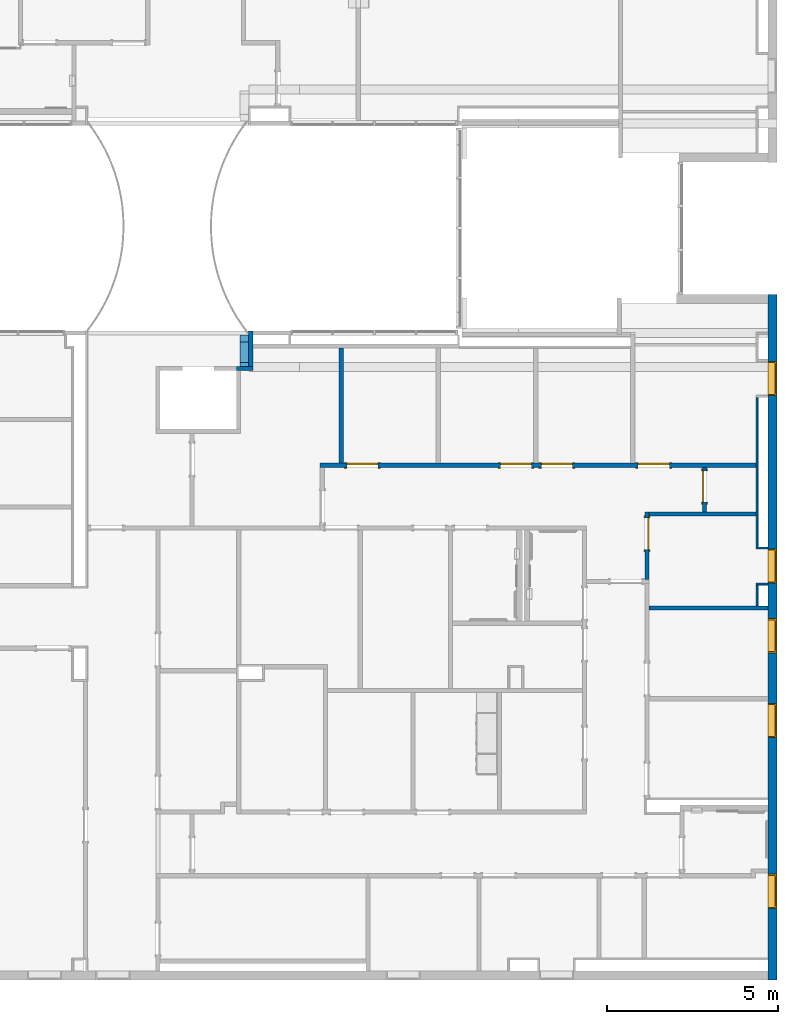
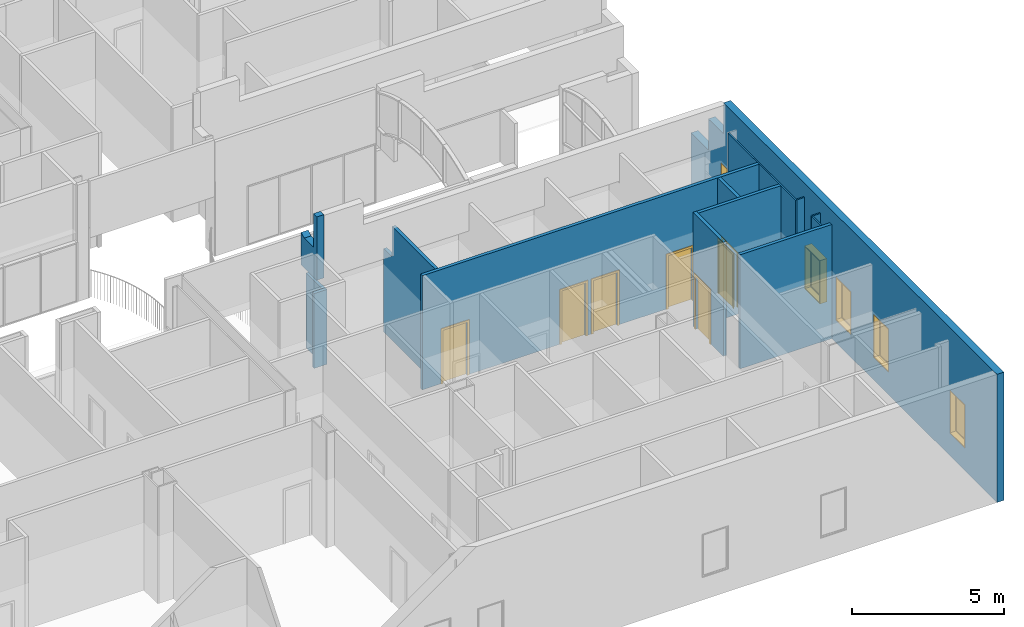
# One storey, part 17 of 47: 14 walls, 6 doors, 5 windows, 14 openings.
"""IFC2X3 building model written with IfcOpenShell, lengths in metres."""

from ifc_helpers import new_model, entity, si_unit, converted_unit, frame, frame_2d, origin, origin_2d_with_axis, place, context, project, spatial, polyline, circle_curve, parameter, trimmed, segment, composite_curve, rectangle, outline, extrude, clip, halfspace, source, transform, mapped, material, layer, layer_set, layer_usage, type_object, type_shapes, element, fill, save


model = new_model("IFC2X3")

# Units and contexts
model_context = context("Model", 3, precision=1e-09, world=origin())
plan_context = context("Plan", 3, precision=1e-09, world=origin())
ifc_project = project(units=[si_unit("LENGTHUNIT", "METRE"), si_unit("AREAUNIT", "SQUARE_METRE"), si_unit("VOLUMEUNIT", "CUBIC_METRE"), converted_unit("PLANEANGLEUNIT", "DEGREE", entity("IfcRatioMeasure", 0.01745329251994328), si_unit("PLANEANGLEUNIT", "RADIAN"), dimensions=[0, 0, 0, 0, 0, 0, 0]), si_unit("TIMEUNIT", "SECOND")], contexts=[model_context, plan_context])

# Site, building, storey
site_placement = place(None, origin())
site = spatial("IfcSite", under=ifc_project, at=site_placement, Name="Default", CompositionType="ELEMENT")
building_placement = place(site_placement, origin())
building = spatial("IfcBuilding", under=site, at=building_placement, CompositionType="ELEMENT")
storey_placement = place(building_placement, frame((0.0, 0.0, 4.570000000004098)))
storey = spatial("IfcBuildingStorey", under=building, at=storey_placement, Name="Second Floor", CompositionType="ELEMENT", Elevation=4.570000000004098)

# Wall, openings, windows
ifc_material_1 = material(Name="Insulation - Insulated Panel")
ifc_layer_1 = layer(ifc_material_1, 0.042)
ifc_material_2 = material(Name="Metal - Firring")
ifc_layer_2 = layer(ifc_material_2, 0.038)
ifc_material_3 = material(Name="Wood - Sheathing - plywood")
ifc_layer_3 = layer(ifc_material_3, 0.019)
ifc_material_4 = material(Name="Metal - Stud Layer")
ifc_layer_4 = layer(ifc_material_4, 0.152)
ifc_material_5 = material(Name="Plasterboard")
ifc_layer_5 = layer(ifc_material_5, 0.016)
ifc_layer_set_1 = layer_set([ifc_layer_1, ifc_layer_2, ifc_layer_3, ifc_layer_4, ifc_layer_5], Name="Basic Wall:Exterior - Insul Panel on Mtl. Stud")
ifc_layer_usage_1 = layer_usage(ifc_layer_set_1, "AXIS2", "NEGATIVE", 0.1335)
wall_1_placement = place(storey_placement, frame((0.246499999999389, 29.75999999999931, 0.0), z_axis=(0.0, 0.0, 1.0), x_axis=(0.0, -1.0, 0.0)))
wall_1 = element("IfcWallStandardCase", 1, at=wall_1_placement, inside=storey, material=ifc_layer_usage_1, Name="Basic Wall:Exterior - Insul Panel on Mtl. Stud", ObjectType="Basic Wall:Exterior - Insul Panel on Mtl. Stud", context=model_context, shape_type="Clipping", body=[
    clip(extrude(rectangle(XDim=20.10000000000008, YDim=0.267, at=frame_2d((10.05000000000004, 0.0), x_axis=(-1.0, 0.0))), origin(), (0.0, 0.0, 1.0), 5.136999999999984), halfspace(frame((2.133403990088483, 0.0, 5.136999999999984), z_axis=(-0.7602909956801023, 0.0, 0.6495826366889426), x_axis=(0.0, 1.0, 0.0)), False)),
])
opening_1_placement = place(wall_1_placement, frame((1.306761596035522, 0.1335, 3.638799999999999)))
element("IfcOpeningElement", 2, at=opening_1_placement, cuts=wall_1, Name="Basic Wall:Exterior - Insul Panel on Mtl. Stud:2", ObjectType="Opening", context=model_context, shape_type="SweptSolid", body=[
    extrude(outline(polyline([(-1.676040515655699, -0.3447159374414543), (1.608228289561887, -0.3447159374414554), (0.8719263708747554, 0.5170739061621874), (-0.07729693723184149, -0.2939300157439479), (-0.7268172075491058, 0.4662879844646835), (-1.676040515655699, -0.3447159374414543)])), frame((0.0, 0.0, 0.0), z_axis=(0.0, -1.0, 0.0), x_axis=(-0.6495826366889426, 0.0, -0.7602909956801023)), (0.0, 0.0, 1.0), 0.267),
])
opening_2_placement = place(wall_1_placement, frame((1.965561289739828, -0.1335000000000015, 0.905)))
opening_2 = element("IfcOpeningElement", 3, at=opening_2_placement, cuts=wall_1, Name="M_Fixed:1735 x 1000mm:1735 x 1000mm:1", ObjectType="Opening", context=model_context, shape_type="SweptSolid", body=[
    extrude(rectangle(XDim=1.734999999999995, YDim=0.9999999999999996, at=frame_2d((0.8674999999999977, 0.4999999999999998), x_axis=(1.0, 0.0))), frame((0.0, 0.0, 0.0), z_axis=(0.0, 1.0, 0.0), x_axis=(0.0, 0.0, 1.0)), (0.0, 0.0, 1.0), 0.267),
])
opening_3_placement = place(wall_1_placement, frame((7.465561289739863, -0.1335000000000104, 0.905)))
opening_3 = element("IfcOpeningElement", 4, at=opening_3_placement, cuts=wall_1, Name="M_Fixed:1735 x 1000mm:1735 x 1000mm:1", ObjectType="Opening", context=model_context, shape_type="SweptSolid", body=[
    extrude(rectangle(XDim=1.734999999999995, YDim=0.9999999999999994, at=frame_2d((0.8674999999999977, 0.5000000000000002), x_axis=(1.0, 0.0))), frame((0.0, 0.0, 0.0), z_axis=(0.0, 1.0, 0.0), x_axis=(0.0, 0.0, 1.0)), (0.0, 0.0, 1.0), 0.267),
])
opening_4_placement = place(wall_1_placement, frame((9.509999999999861, -0.1335000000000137, 0.905)))
opening_4 = element("IfcOpeningElement", 5, at=opening_4_placement, cuts=wall_1, Name="M_Fixed:1735 x 1000mm:1735 x 1000mm:1", ObjectType="Opening", context=model_context, shape_type="SweptSolid", body=[
    extrude(rectangle(XDim=1.734999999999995, YDim=0.9999999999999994, at=frame_2d((0.8674999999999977, 0.5000000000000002), x_axis=(1.0, 0.0))), frame((0.0, 0.0, 0.0), z_axis=(0.0, 1.0, 0.0), x_axis=(0.0, 0.0, 1.0)), (0.0, 0.0, 1.0), 0.267),
])
opening_5_placement = place(wall_1_placement, frame((11.99049999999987, -0.1335000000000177, 0.905)))
opening_5 = element("IfcOpeningElement", 6, at=opening_5_placement, cuts=wall_1, Name="M_Fixed:1735 x 1000mm:1735 x 1000mm:1", ObjectType="Opening", context=model_context, shape_type="SweptSolid", body=[
    extrude(rectangle(XDim=1.734999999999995, YDim=0.9999999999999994, at=frame_2d((0.8674999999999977, 0.5000000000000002), x_axis=(1.0, 0.0))), frame((0.0, 0.0, 0.0), z_axis=(0.0, 1.0, 0.0), x_axis=(0.0, 0.0, 1.0)), (0.0, 0.0, 1.0), 0.267),
])
opening_6_placement = place(wall_1_placement, frame((17.0, -0.1335000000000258, 0.905)))
opening_6 = element("IfcOpeningElement", 7, at=opening_6_placement, cuts=wall_1, Name="M_Fixed:1735 x 1000mm:1735 x 1000mm:1", ObjectType="Opening", context=model_context, shape_type="SweptSolid", body=[
    extrude(rectangle(XDim=1.734999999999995, YDim=0.9999999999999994, at=frame_2d((0.8674999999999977, 0.5000000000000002), x_axis=(1.0, 0.0))), frame((0.0, 0.0, 0.0), z_axis=(0.0, 1.0, 0.0), x_axis=(0.0, 0.0, 1.0)), (0.0, 0.0, 1.0), 0.267),
])
window_style = type_object("IfcWindowStyle", Name="1735 x 1000mm", ConstructionType="NOTDEFINED", OperationType="NOTDEFINED", ParameterTakesPrecedence=False, Sizeable=False)
shared_shape_1 = source(origin(), model_context, "Body", "SweptSolid", [
    extrude(rectangle(XDim=0.012, YDim=0.873999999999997, at=origin_2d_with_axis()), frame((0.5000000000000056, 0.2259999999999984, 0.06299999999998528), z_axis=(0.0, 0.0, 1.0), x_axis=(0.0, -1.0, 0.0)), (0.0, 0.0, 1.0), 1.609000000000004),
    extrude(outline(polyline([(-0.4809999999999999, -0.8485000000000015), (0.4809999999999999, -0.8485000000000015), (0.4809999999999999, 0.8485000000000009), (-0.4809999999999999, 0.8485000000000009), (-0.4809999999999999, -0.8485000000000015)]), holes=[polyline([(-0.4369999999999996, -0.8045000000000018), (-0.4369999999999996, 0.8045000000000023), (0.4369999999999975, 0.8045000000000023), (0.4369999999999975, -0.8045000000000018), (-0.4369999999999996, -0.8045000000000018)])]), frame((0.5000000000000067, 0.203999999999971, 0.8674999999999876), z_axis=(0.0, 1.0, 0.0), x_axis=(1.0, 0.0, 0.0)), (0.0, 0.0, 1.0), 0.04400000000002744),
    extrude(outline(polyline([(-0.4999999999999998, -0.8674999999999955), (0.4999999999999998, -0.8674999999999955), (0.4999999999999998, 0.8674999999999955), (-0.4999999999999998, 0.8674999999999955), (-0.4999999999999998, -0.8674999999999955)]), holes=[polyline([(-0.4810000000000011, -0.8484999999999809), (-0.4810000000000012, 0.8485000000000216), (0.4809999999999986, 0.8485000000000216), (0.4809999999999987, -0.8484999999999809), (-0.4810000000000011, -0.8484999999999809)])]), frame((0.500000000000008, 0.203999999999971, 0.8675000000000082), z_axis=(0.0, 1.0, 0.0), x_axis=(1.0, 0.0, 0.0)), (0.0, 0.0, 1.0), 0.06300000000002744),
    extrude(outline(polyline([(-0.5000000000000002, -0.867499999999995), (0.5000000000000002, -0.867499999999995), (0.5000000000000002, 0.867499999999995), (-0.5000000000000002, 0.867499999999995), (-0.5000000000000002, -0.867499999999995)]), holes=[polyline([(-0.4679999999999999, -0.8354999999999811), (-0.4679999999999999, 0.8355000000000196), (0.4680000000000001, 0.8355000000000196), (0.4680000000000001, -0.8354999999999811), (-0.4679999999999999, -0.8354999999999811)])]), frame((0.5000000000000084, 0.0, 0.8675000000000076), z_axis=(0.0, 1.0, 0.0), x_axis=(1.0, 0.0, 0.0)), (0.0, 0.0, 1.0), 0.2039999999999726),
])
type_shapes(window_style, [shared_shape_1])
window_1_placement = place(opening_2_placement, origin())
window_1 = element("IfcWindow", 8, at=window_1_placement, inside=storey, type_object=window_style, Name="M_Fixed:1735 x 1000mm:1735 x 1000mm", ObjectType="1735 x 1000mm", OverallHeight=1.734999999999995, OverallWidth=0.9999999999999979, context=model_context, shape_type="MappedRepresentation", body=[
    mapped(shared_shape_1, transform((0.0, 0.0, 0.0), scale=1.0)),
])
fill(opening_2, window_1)
window_2_placement = place(opening_3_placement, origin())
window_2 = element("IfcWindow", 9, at=window_2_placement, inside=storey, type_object=window_style, Name="M_Fixed:1735 x 1000mm:1735 x 1000mm", ObjectType="1735 x 1000mm", OverallHeight=1.734999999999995, OverallWidth=0.9999999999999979, context=model_context, shape_type="MappedRepresentation", body=[
    mapped(shared_shape_1, transform((0.0, 0.0, 0.0), scale=1.0)),
])
fill(opening_3, window_2)
window_3_placement = place(opening_4_placement, origin())
window_3 = element("IfcWindow", 10, at=window_3_placement, inside=storey, type_object=window_style, Name="M_Fixed:1735 x 1000mm:1735 x 1000mm", ObjectType="1735 x 1000mm", OverallHeight=1.734999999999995, OverallWidth=1.0, context=model_context, shape_type="MappedRepresentation", body=[
    mapped(shared_shape_1, transform((0.0, 0.0, 0.0), scale=1.0)),
])
fill(opening_4, window_3)
window_4_placement = place(opening_5_placement, origin())
window_4 = element("IfcWindow", 11, at=window_4_placement, inside=storey, type_object=window_style, Name="M_Fixed:1735 x 1000mm:1735 x 1000mm", ObjectType="1735 x 1000mm", OverallHeight=1.734999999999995, OverallWidth=1.0, context=model_context, shape_type="MappedRepresentation", body=[
    mapped(shared_shape_1, transform((0.0, 0.0, 0.0), scale=1.0)),
])
fill(opening_5, window_4)
window_5_placement = place(opening_6_placement, origin())
window_5 = element("IfcWindow", 12, at=window_5_placement, inside=storey, type_object=window_style, Name="M_Fixed:1735 x 1000mm:1735 x 1000mm", ObjectType="1735 x 1000mm", OverallHeight=1.734999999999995, OverallWidth=1.0, context=model_context, shape_type="MappedRepresentation", body=[
    mapped(shared_shape_1, transform((0.0, 0.0, 0.0), scale=1.0)),
])
fill(opening_6, window_5)

# Wall
ifc_layer_6 = layer(ifc_material_5, 0.016)
ifc_layer_7 = layer(ifc_material_4, 0.092)
ifc_layer_8 = layer(ifc_material_5, 0.016)
ifc_layer_set_2 = layer_set([ifc_layer_6, ifc_layer_7, ifc_layer_8], Name="Basic Wall:Interior - Partition (92mm Stud)")
ifc_layer_usage_2 = layer_usage(ifc_layer_set_2, "AXIS2", "NEGATIVE", 0.062)
wall_2_placement = place(storey_placement, frame((-15.0479750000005, 27.64589999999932, 0.0), z_axis=(0.0, 0.0, 1.0), x_axis=(0.0, 1.0, 0.0)))
element("IfcWallStandardCase", 13, at=wall_2_placement, inside=storey, material=ifc_layer_usage_2, Name="Basic Wall:Interior - Partition (92mm Stud)", ObjectType="Basic Wall:Interior - Partition (92mm Stud)", context=model_context, shape_type="SweptSolid", body=[
    extrude(rectangle(XDim=1.044298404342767, YDim=0.1240000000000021, at=frame_2d((0.5221492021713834, 0.0), x_axis=(-1.0, 0.0))), origin(), (0.0, 0.0, 1.0), 2.999999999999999),
])

# Wall, openings, doors
ifc_layer_usage_3 = layer_usage(ifc_layer_set_2, "AXIS2", "NEGATIVE", 0.062)
wall_3_placement = place(storey_placement, frame((-0.2300000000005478, 24.74643871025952, 0.0), z_axis=(0.0, 0.0, 1.0), x_axis=(-1.0, 0.0, 0.0)))
wall_3 = element("IfcWallStandardCase", 14, at=wall_3_placement, inside=storey, material=ifc_layer_usage_3, Name="Basic Wall:Interior - Partition (92mm Stud)", ObjectType="Basic Wall:Interior - Partition (92mm Stud)", context=model_context, shape_type="SweptSolid", body=[
    extrude(rectangle(XDim=12.78000000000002, YDim=0.1239999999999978, at=frame_2d((6.39000000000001, 0.0), x_axis=(-1.0, 0.0))), origin(), (0.0, 0.0, 1.0), 4.577999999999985),
])
opening_7_placement = place(wall_3_placement, frame((11.99997500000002, 0.06199999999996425, 0.0)))
opening_7 = element("IfcOpeningElement", 15, at=opening_7_placement, cuts=wall_3, Name="M_Single-Flush:0915 x 2134mm:0915 x 2134mm:1", ObjectType="Opening", context=model_context, shape_type="SweptSolid", body=[
    extrude(rectangle(XDim=0.9149999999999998, YDim=2.134, at=frame_2d((1.067, 0.4574999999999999), x_axis=(0.0, -1.0))), frame((0.0, 0.0, 0.0), z_axis=(0.0, -1.0, 0.0), x_axis=(0.0, 0.0, 1.0)), (0.0, 0.0, 1.0), 0.124),
])
opening_8_placement = place(wall_3_placement, frame((7.498975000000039, 0.06199999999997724, 0.0)))
opening_8 = element("IfcOpeningElement", 16, at=opening_8_placement, cuts=wall_3, Name="M_Single-Flush:0915 x 2134mm:0915 x 2134mm:1", ObjectType="Opening", context=model_context, shape_type="SweptSolid", body=[
    extrude(rectangle(XDim=0.9149999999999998, YDim=2.134, at=frame_2d((1.067, 0.4575), x_axis=(0.0, 1.0))), frame((0.0, 0.0, 0.0), z_axis=(0.0, -1.0, 0.0), x_axis=(0.0, 0.0, 1.0)), (0.0, 0.0, 1.0), 0.124),
])
opening_9_placement = place(wall_3_placement, frame((6.29997500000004, 0.06199999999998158, 0.0)))
opening_9 = element("IfcOpeningElement", 17, at=opening_9_placement, cuts=wall_3, Name="M_Single-Flush:0915 x 2134mm:0915 x 2134mm:1", ObjectType="Opening", context=model_context, shape_type="SweptSolid", body=[
    extrude(rectangle(XDim=0.9150000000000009, YDim=2.134, at=frame_2d((1.067, 0.4574999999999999), x_axis=(0.0, -1.0))), frame((0.0, 0.0, 0.0), z_axis=(0.0, -1.0, 0.0), x_axis=(0.0, 0.0, 1.0)), (0.0, 0.0, 1.0), 0.124),
])
opening_10_placement = place(wall_3_placement, frame((3.459975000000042, 0.06199999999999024, 0.0)))
opening_10 = element("IfcOpeningElement", 18, at=opening_10_placement, cuts=wall_3, Name="M_Single-Flush:0915 x 2134mm:0915 x 2134mm:1", ObjectType="Opening", context=model_context, shape_type="SweptSolid", body=[
    extrude(rectangle(XDim=0.9149999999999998, YDim=2.134, at=frame_2d((1.067, 0.4575000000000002), x_axis=(0.0, -1.0))), frame((0.0, 0.0, 0.0), z_axis=(0.0, -1.0, 0.0), x_axis=(0.0, 0.0, 1.0)), (0.0, 0.0, 1.0), 0.124),
])
door_style_1 = type_object("IfcDoorStyle", Name="0915 x 2134mm", ConstructionType="NOTDEFINED", OperationType="SINGLE_SWING_RIGHT", ParameterTakesPrecedence=False, Sizeable=False)
shared_shape_2 = source(origin(), model_context, "Body", "SweptSolid", [
    extrude(outline(polyline([(-0.5335, -1.123999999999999), (0.5334999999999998, -1.123999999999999), (0.5334999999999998, 1.086), (0.4574999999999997, 1.086), (0.4574999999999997, -1.048000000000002), (-0.4574999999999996, -1.048000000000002), (-0.4574999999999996, 1.086), (-0.5335, 1.086), (-0.5335, -1.123999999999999)])), frame((0.4575000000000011, 0.1239999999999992, 1.086), z_axis=(0.0, 1.0, 0.0), x_axis=(1.0, 0.0, 0.0)), (0.0, 0.0, 1.0), 0.02499999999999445),
    extrude(outline(polyline([(-1.123999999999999, -0.5334999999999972), (1.085999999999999, -0.5334999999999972), (1.085999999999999, -0.4575000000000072), (-1.048, -0.4575000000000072), (-1.048, 0.4575000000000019), (1.085999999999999, 0.4575000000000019), (1.085999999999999, 0.5335000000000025), (-1.123999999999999, 0.5335000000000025), (-1.123999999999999, -0.5334999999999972)])), frame((0.4575000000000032, -0.02500000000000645, 1.085999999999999), z_axis=(0.0, 1.0, 0.0), x_axis=(0.0, 0.0, -1.0)), (0.0, 0.0, 1.0), 0.02500000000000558),
    extrude(rectangle(XDim=0.051, YDim=0.9149999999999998, at=origin_2d_with_axis()), frame((0.4575000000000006, 0.09849999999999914, 0.0), z_axis=(0.0, 0.0, 1.0), x_axis=(0.0, 1.0, 0.0)), (0.0, 0.0, 1.0), 2.133999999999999),
])
type_shapes(door_style_1, [shared_shape_2])
door_1_placement = place(opening_8_placement, frame((0.0, 0.0, 0.0), z_axis=(0.0, 0.0, 1.0), x_axis=(-1.0, 0.0, 0.0)))
door_1 = element("IfcDoor", 19, at=door_1_placement, inside=storey, type_object=door_style_1, Name="M_Single-Flush:0915 x 2134mm:0915 x 2134mm", ObjectType="0915 x 2134mm", OverallHeight=2.134, OverallWidth=0.9149999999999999, context=model_context, shape_type="MappedRepresentation", body=[
    mapped(shared_shape_2, transform((0.0, 0.0, 0.0), scale=1.0)),
])
fill(opening_8, door_1)
door_style_2 = type_object("IfcDoorStyle", Name="0915 x 2134mm", ConstructionType="NOTDEFINED", OperationType="SINGLE_SWING_LEFT", ParameterTakesPrecedence=False, Sizeable=False)
shared_shape_3 = source(origin(), model_context, "Body", "SweptSolid", [
    extrude(outline(polyline([(-0.5335, -1.123999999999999), (0.5334999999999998, -1.123999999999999), (0.5334999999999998, 1.086), (0.4574999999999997, 1.086), (0.4574999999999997, -1.048000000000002), (-0.4574999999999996, -1.048000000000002), (-0.4574999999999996, 1.086), (-0.5335, 1.086), (-0.5335, -1.123999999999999)])), frame((0.4575000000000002, 0.1489999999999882, 1.086), z_axis=(0.0, -1.0, 0.0), x_axis=(-1.0, 0.0, 0.0)), (0.0, 0.0, 1.0), 0.02499999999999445),
    extrude(outline(polyline([(-1.123999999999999, -0.5334999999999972), (1.085999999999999, -0.5334999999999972), (1.085999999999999, -0.4575000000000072), (-1.048, -0.4575000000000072), (-1.048, 0.4575000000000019), (1.085999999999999, 0.4575000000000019), (1.085999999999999, 0.5335000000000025), (-1.123999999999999, 0.5335000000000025), (-1.123999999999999, -0.5334999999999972)])), frame((0.4574999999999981, 0.0, 1.085999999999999), z_axis=(0.0, -1.0, 0.0), x_axis=(0.0, 0.0, -1.0)), (0.0, 0.0, 1.0), 0.02500000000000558),
    extrude(rectangle(XDim=0.9149999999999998, YDim=0.051, at=origin_2d_with_axis()), frame((0.4575000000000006, 0.09849999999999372, 0.0)), (0.0, 0.0, 1.0), 2.133999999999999),
])
type_shapes(door_style_2, [shared_shape_3])
door_2_placement = place(opening_7_placement, frame((0.0, 0.0, 0.0), z_axis=(0.0, 0.0, 1.0), x_axis=(-1.0, 0.0, 0.0)))
door_2 = element("IfcDoor", 20, at=door_2_placement, inside=storey, type_object=door_style_2, Name="M_Single-Flush:0915 x 2134mm:0915 x 2134mm", ObjectType="0915 x 2134mm", OverallHeight=2.134, OverallWidth=0.9149999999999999, context=model_context, shape_type="MappedRepresentation", body=[
    mapped(shared_shape_3, transform((0.0, 0.0, 0.0), scale=1.0)),
])
fill(opening_7, door_2)
door_3_placement = place(opening_9_placement, frame((0.0, 0.0, 0.0), z_axis=(0.0, 0.0, 1.0), x_axis=(-1.0, 0.0, 0.0)))
door_3 = element("IfcDoor", 21, at=door_3_placement, inside=storey, type_object=door_style_2, Name="M_Single-Flush:0915 x 2134mm:0915 x 2134mm", ObjectType="0915 x 2134mm", OverallHeight=2.134, OverallWidth=0.9149999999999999, context=model_context, shape_type="MappedRepresentation", body=[
    mapped(shared_shape_3, transform((0.0, 0.0, 0.0), scale=1.0)),
])
fill(opening_9, door_3)
door_4_placement = place(opening_10_placement, frame((0.0, 0.0, 0.0), z_axis=(0.0, 0.0, 1.0), x_axis=(-1.0, 0.0, 0.0)))
door_4 = element("IfcDoor", 22, at=door_4_placement, inside=storey, type_object=door_style_2, Name="M_Single-Flush:0915 x 2134mm:0915 x 2134mm", ObjectType="0915 x 2134mm", OverallHeight=2.134, OverallWidth=0.9149999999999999, context=model_context, shape_type="MappedRepresentation", body=[
    mapped(shared_shape_3, transform((0.0, 0.0, 0.0), scale=1.0)),
])
fill(opening_10, door_4)

# Wall, opening
ifc_layer_usage_4 = layer_usage(ifc_layer_set_2, "AXIS2", "NEGATIVE", 0.062)
wall_4_placement = place(storey_placement, frame((-12.39197500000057, 28.18443871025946, 0.0), z_axis=(0.0, 0.0, 1.0), x_axis=(0.0, -1.0, 0.0)))
wall_4 = element("IfcWallStandardCase", 23, at=wall_4_placement, inside=storey, material=ifc_layer_usage_4, Name="Basic Wall:Interior - Partition (92mm Stud)", ObjectType="Basic Wall:Interior - Partition (92mm Stud)", context=model_context, shape_type="Clipping", body=[
    clip(extrude(rectangle(XDim=3.3759999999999, YDim=0.1240000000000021, at=frame_2d((1.68799999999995, 0.0), x_axis=(-1.0, 0.0))), origin(), (0.0, 0.0, 1.0), 4.577999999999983), halfspace(frame((0.5578427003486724, 0.0, 4.577999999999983), z_axis=(-0.892247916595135, 0.0, 0.4515458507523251), x_axis=(0.0, 1.0, 0.0)), False)),
])
opening_11_placement = place(wall_4_placement, frame((0.351228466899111, 0.06200000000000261, 3.761466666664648)))
element("IfcOpeningElement", 24, at=opening_11_placement, cuts=wall_4, Name="Basic Wall:Interior - Partition (92mm Stud):2", ObjectType="Opening", context=model_context, shape_type="SweptSolid", body=[
    extrude(outline(polyline([(-0.8218459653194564, -0.1843511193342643), (0.5508666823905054, -0.1843511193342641), (0.2709792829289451, 0.36870223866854), (-0.8218459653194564, -0.1843511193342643)])), frame((0.0, 0.0, 0.0), z_axis=(0.0, -1.0, 0.0), x_axis=(-0.4515458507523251, 0.0, -0.892247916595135)), (0.0, 0.0, 1.0), 0.124),
])

# Wall, opening, door
ifc_layer_usage_5 = layer_usage(ifc_layer_set_2, "AXIS2", "NEGATIVE", 0.062)
wall_5_placement = place(storey_placement, frame((-3.428000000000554, 21.40103871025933, 0.0), z_axis=(0.0, 0.0, 1.0), x_axis=(0.0, 1.0, 0.0)))
wall_5 = element("IfcWallStandardCase", 25, at=wall_5_placement, inside=storey, material=ifc_layer_usage_5, Name="Basic Wall:Interior - Partition (92mm Stud)", ObjectType="Basic Wall:Interior - Partition (92mm Stud)", context=model_context, shape_type="SweptSolid", body=[
    extrude(rectangle(XDim=1.983400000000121, YDim=0.124, at=frame_2d((0.9917000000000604, 0.0), x_axis=(-1.0, 0.0))), origin(), (0.0, 0.0, 1.0), 4.577999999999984),
])
opening_12_placement = place(wall_5_placement, frame((1.799400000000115, 0.06199999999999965, 0.0)))
opening_12 = element("IfcOpeningElement", 26, at=opening_12_placement, cuts=wall_5, Name="M_Single-Flush:0915 x 2134mm:0915 x 2134mm:1", ObjectType="Opening", context=model_context, shape_type="SweptSolid", body=[
    extrude(rectangle(XDim=0.9149999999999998, YDim=2.134, at=frame_2d((1.067, 0.4575000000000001), x_axis=(0.0, -1.0))), frame((0.0, 0.0, 0.0), z_axis=(0.0, -1.0, 0.0), x_axis=(0.0, 0.0, 1.0)), (0.0, 0.0, 1.0), 0.124),
])
door_5_placement = place(opening_12_placement, frame((0.0, 0.0, 0.0), z_axis=(0.0, 0.0, 1.0), x_axis=(-1.0, 0.0, 0.0)))
door_5 = element("IfcDoor", 27, at=door_5_placement, inside=storey, type_object=door_style_2, Name="M_Single-Flush:0915 x 2134mm:0915 x 2134mm", ObjectType="0915 x 2134mm", OverallHeight=2.134, OverallWidth=0.9149999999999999, context=model_context, shape_type="MappedRepresentation", body=[
    mapped(shared_shape_3, transform((0.0, 0.0, 0.0), scale=1.0)),
])
fill(opening_12, door_5)

# Walls
ifc_layer_usage_6 = layer_usage(ifc_layer_set_2, "AXIS2", "NEGATIVE", 0.062)
wall_6_placement = place(storey_placement, frame((-3.36600000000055, 23.32243871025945, 0.0)))
element("IfcWallStandardCase", 28, at=wall_6_placement, inside=storey, material=ifc_layer_usage_6, Name="Basic Wall:Interior - Partition (92mm Stud)", ObjectType="Basic Wall:Interior - Partition (92mm Stud)", context=model_context, shape_type="SweptSolid", body=[
    extrude(rectangle(XDim=3.136, YDim=0.1239999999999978, at=frame_2d((1.568, 0.0), x_axis=(-1.0, 0.0))), origin(), (0.0, 0.0, 1.0), 4.577999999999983),
])
ifc_layer_usage_7 = layer_usage(ifc_layer_set_2, "AXIS2", "NEGATIVE", 0.062)
wall_7_placement = place(storey_placement, frame((0.1129999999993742, 20.56643871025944, 0.0), z_axis=(0.0, 0.0, 1.0), x_axis=(-1.0, 0.0, 0.0)))
element("IfcWallStandardCase", 29, at=wall_7_placement, inside=storey, material=ifc_layer_usage_7, Name="Basic Wall:Interior - Partition (92mm Stud)", ObjectType="Basic Wall:Interior - Partition (92mm Stud)", context=model_context, shape_type="SweptSolid", body=[
    extrude(rectangle(XDim=3.478999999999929, YDim=0.1239999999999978, at=frame_2d((1.739499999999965, 0.0), x_axis=(-1.0, 0.0))), origin(), (0.0, 0.0, 1.0), 4.577999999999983),
])

# Wall, opening, door
ifc_layer_usage_8 = layer_usage(ifc_layer_set_2, "AXIS2", "NEGATIVE", 0.062)
wall_8_placement = place(storey_placement, frame((-1.74800000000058, 23.38443871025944, 0.0), z_axis=(0.0, 0.0, 1.0), x_axis=(0.0, 1.0, 0.0)))
wall_8 = element("IfcWallStandardCase", 30, at=wall_8_placement, inside=storey, material=ifc_layer_usage_8, Name="Basic Wall:Interior - Partition (92mm Stud)", ObjectType="Basic Wall:Interior - Partition (92mm Stud)", context=model_context, shape_type="SweptSolid", body=[
    extrude(rectangle(XDim=1.300000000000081, YDim=0.124, at=frame_2d((0.6500000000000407, 0.0), x_axis=(-1.0, 0.0))), origin(), (0.0, 0.0, 1.0), 4.577999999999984),
])
opening_13_placement = place(wall_8_placement, frame((0.2850000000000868, -0.06200000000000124, 0.0)))
opening_13 = element("IfcOpeningElement", 31, at=opening_13_placement, cuts=wall_8, Name="M_Single-Flush:0915 x 2134mm:0915 x 2134mm:1", ObjectType="Opening", context=model_context, shape_type="SweptSolid", body=[
    extrude(rectangle(XDim=0.9149999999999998, YDim=2.134, at=frame_2d((1.067, 0.4575), x_axis=(0.0, 1.0))), frame((0.0, 0.0, 0.0), z_axis=(0.0, 1.0, 0.0), x_axis=(0.0, 0.0, 1.0)), (0.0, 0.0, 1.0), 0.124),
])
door_6_placement = place(opening_13_placement, origin())
door_6 = element("IfcDoor", 32, at=door_6_placement, inside=storey, type_object=door_style_1, Name="M_Single-Flush:0915 x 2134mm:0915 x 2134mm", ObjectType="0915 x 2134mm", OverallHeight=2.134, OverallWidth=0.9149999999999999, context=model_context, shape_type="MappedRepresentation", body=[
    mapped(shared_shape_2, transform((0.0, 0.0, 0.0), scale=1.0)),
])
fill(opening_13, door_6)

# Wall, opening
ifc_layer_usage_9 = layer_usage(ifc_layer_set_1, "AXIS2", "NEGATIVE", 0.1335)
wall_9_placement = place(storey_placement, frame((-15.23000000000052, 28.56619840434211, 3.486499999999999), z_axis=(0.0, 0.0, 1.0), x_axis=(0.0, -1.0, 0.0)))
wall_9 = element("IfcWallStandardCase", 33, at=wall_9_placement, inside=storey, material=ifc_layer_usage_9, Name="Basic Wall:Exterior - Insul Panel on Mtl. Stud", ObjectType="Basic Wall:Exterior - Insul Panel on Mtl. Stud", context=model_context, shape_type="SweptSolid", body=[
    extrude(rectangle(XDim=1.026688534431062, YDim=0.267, at=frame_2d((0.5133442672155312, 0.0), x_axis=(-1.0, 0.0))), origin(), (0.0, 0.0, 1.0), 2.543499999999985),
])
opening_14_placement = place(wall_9_placement, origin())
element("IfcOpeningElement", 34, at=opening_14_placement, cuts=wall_9, ObjectType="Opening", context=model_context, shape_type="SweptSolid", body=[
    extrude(outline(composite_curve([segment(polyline([(-3.935840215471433, 0.4658794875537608), (-3.935840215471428, -0.9317589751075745)]), True, "CONTINUOUS"), segment(trimmed(circle_curve(frame_2d((-0.0006862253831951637, 6.416606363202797), x_axis=(-1.0, 0.0)), 8.33570093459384), [parameter(61.8303182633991)], [parameter(118.1696817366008)], True, "PARAMETER"), True, "CONTINUOUS"), segment(polyline([(3.934467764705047, -0.9317589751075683), (3.934467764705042, 0.4658794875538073)]), True, "CONTINUOUS"), segment(polyline([(3.934467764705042, 0.4658794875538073), (3.336313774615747, 0.4658794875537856)]), True, "CONTINUOUS"), segment(trimmed(circle_curve(frame_2d((0.001372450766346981, 6.383921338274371), x_axis=(-1.0, 0.0)), 6.793015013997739), [parameter(60.59782404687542)], [parameter(119.4021759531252)], True, "PARAMETER"), False, "CONTINUOUS"), segment(polyline([(-3.333568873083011, 0.4658794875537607), (-3.935840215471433, 0.4658794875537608)]), True, "CONTINUOUS")], self_intersect=False)), frame((-3.129737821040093, -0.2858999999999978, 1.659379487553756), z_axis=(0.0, -1.0, 0.0), x_axis=(-1.0, 0.0, 0.0)), (0.0, 0.0, -1.0), 0.5718),
])

# Walls
ifc_layer_9 = layer(ifc_material_4, 0.038)
ifc_layer_10 = layer(ifc_material_5, 0.016)
ifc_layer_set_3 = layer_set([ifc_layer_9, ifc_layer_10], Name="Basic Wall:Interior - Furring (38 mm Stud)")
ifc_layer_usage_10 = layer_usage(ifc_layer_set_3, "AXIS2", "NEGATIVE", 0.027)
wall_10_placement = place(storey_placement, frame((0.1129999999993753, 21.26499999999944, 0.0), z_axis=(0.0, 0.0, 1.0), x_axis=(-1.0, 0.0, 0.0)))
element("IfcWallStandardCase", 35, at=wall_10_placement, inside=storey, material=ifc_layer_usage_10, Name="Basic Wall:Interior - Furring (38 mm Stud)", ObjectType="Basic Wall:Interior - Furring (38 mm Stud)", context=model_context, shape_type="SweptSolid", body=[
    extrude(rectangle(XDim=0.3429999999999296, YDim=0.05399999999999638, at=frame_2d((0.1714999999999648, 0.0), x_axis=(-1.0, 0.0))), origin(), (0.0, 0.0, 1.0), 4.577999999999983),
])
ifc_layer_usage_11 = layer_usage(ifc_layer_set_3, "AXIS2", "NEGATIVE", 0.027)
wall_11_placement = place(storey_placement, frame((-0.2030000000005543, 21.23799999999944, 0.0), z_axis=(0.0, 0.0, 1.0), x_axis=(0.0, -1.0, 0.0)))
element("IfcWallStandardCase", 36, at=wall_11_placement, inside=storey, material=ifc_layer_usage_11, Name="Basic Wall:Interior - Furring (38 mm Stud)", ObjectType="Basic Wall:Interior - Furring (38 mm Stud)", context=model_context, shape_type="SweptSolid", body=[
    extrude(rectangle(XDim=0.6095612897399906, YDim=0.05400000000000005, at=frame_2d((0.3047806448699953, 0.0), x_axis=(-1.0, 0.0))), origin(), (0.0, 0.0, 1.0), 4.577999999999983),
])
ifc_layer_usage_12 = layer_usage(ifc_layer_set_3, "AXIS2", "NEGATIVE", 0.027)
wall_12_placement = place(storey_placement, frame((-0.2030000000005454, 26.74043871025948, 0.0), z_axis=(0.0, 0.0, 1.0), x_axis=(0.0, -1.0, 0.0)))
element("IfcWallStandardCase", 37, at=wall_12_placement, inside=storey, material=ifc_layer_usage_12, Name="Basic Wall:Interior - Furring (38 mm Stud)", ObjectType="Basic Wall:Interior - Furring (38 mm Stud)", context=model_context, shape_type="SweptSolid", body=[
    extrude(rectangle(XDim=4.446000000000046, YDim=0.05399999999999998, at=frame_2d((2.223000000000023, 0.0), x_axis=(-1.0, 0.0))), origin(), (0.0, 0.0, 1.0), 4.577999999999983),
])
ifc_layer_usage_13 = layer_usage(ifc_layer_set_3, "AXIS2", "NEGATIVE", 0.027)
wall_13_placement = place(storey_placement, frame((-0.1760000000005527, 22.32143871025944, 0.0)))
element("IfcWallStandardCase", 38, at=wall_13_placement, inside=storey, material=ifc_layer_usage_13, Name="Basic Wall:Interior - Furring (38 mm Stud)", ObjectType="Basic Wall:Interior - Furring (38 mm Stud)", context=model_context, shape_type="SweptSolid", body=[
    extrude(rectangle(XDim=0.2889999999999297, YDim=0.05399999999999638, at=frame_2d((0.1444999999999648, 0.0), x_axis=(-1.0, 0.0))), origin(), (0.0, 0.0, 1.0), 4.577999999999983),
])
ifc_layer_usage_14 = layer_usage(ifc_layer_set_2, "AXIS2", "NEGATIVE", 0.062)
wall_14_placement = place(storey_placement, frame((-15.47000000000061, 27.58389999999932, 0.0)))
element("IfcWallStandardCase", 39, at=wall_14_placement, inside=storey, material=ifc_layer_usage_14, Name="Basic Wall:Interior - Partition (92mm Stud)", ObjectType="Basic Wall:Interior - Partition (92mm Stud)", context=model_context, shape_type="SweptSolid", body=[
    extrude(rectangle(XDim=0.4840250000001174, YDim=0.1239999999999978, at=frame_2d((0.2420125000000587, 0.0), x_axis=(-1.0, 0.0))), origin(), (0.0, 0.0, 1.0), 2.999999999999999),
])

save(model, "model.ifc")
